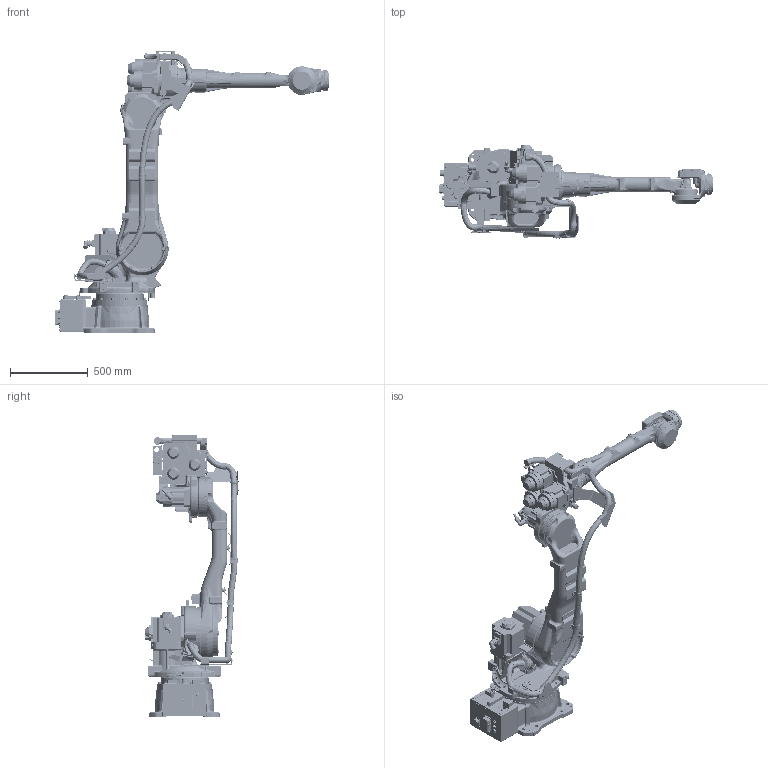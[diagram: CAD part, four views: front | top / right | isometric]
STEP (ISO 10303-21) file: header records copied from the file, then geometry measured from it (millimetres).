
FILE_DESCRIPTION(/* description */ (''),/* implementation_level */ '2;1');
FILE_NAME(/* name */ 'GP50L.stp',/* time_stamp */ '2019-06-28T13:02:24+02:00',/* author */ (''),/* organization */ (''),/* preprocessor_version */ 'ST-DEVELOPER v16.7',/* originating_system */ 'SIEMENS PLM Software NX 12.0',/* authorisation */ '');
FILE_SCHEMA (('AUTOMOTIVE_DESIGN { 1 0 10303 214 3 1 1 1 }'));
Products named in the file (8): ASSY_T_AXIS_GP50-C00; ASSY_B_AXIS_GP50-C00; ASSY_R_AXIS_GP50-C00; ASSY_U_AXIS_GP50-C00; ASSY_L_AXIS_GP50-C00; ASSY_S_AXIS_GP50-C00; ASSY_BASE_GP50-C00; GP50L
Assembly tree (7 placements, depth 2):
  GP50L
    ASSY_BASE_GP50-C00
    ASSY_S_AXIS_GP50-C00
    ASSY_L_AXIS_GP50-C00
    ASSY_U_AXIS_GP50-C00
    ASSY_R_AXIS_GP50-C00
    ASSY_B_AXIS_GP50-C00
    ASSY_T_AXIS_GP50-C00
Bounding box: 1759.85 x 600.7 x 1811 mm (x, y, z)
Volume: 143875008.2 mm3; surface area: 6029563.2 mm2
Topology: 7 solids, 10 shells, 10247 faces, 25727 edges, 15900 vertices
Faces by surface type: plane 4078, cylinder 3239, bspline 1398, torus 746, cone 591, sphere 177, extrusion 12, revolution 6
Full cylindrical faces by diameter (mm): 3.545 x1, 42.8 x2
Entity records: 425823 total; most frequent: CARTESIAN_POINT 187282, ORIENTED_EDGE 51270, DIRECTION 48644, EDGE_CURVE 25635, AXIS2_PLACEMENT_3D 18474, VERTEX_POINT 15902, VECTOR 11690, LINE 11678
